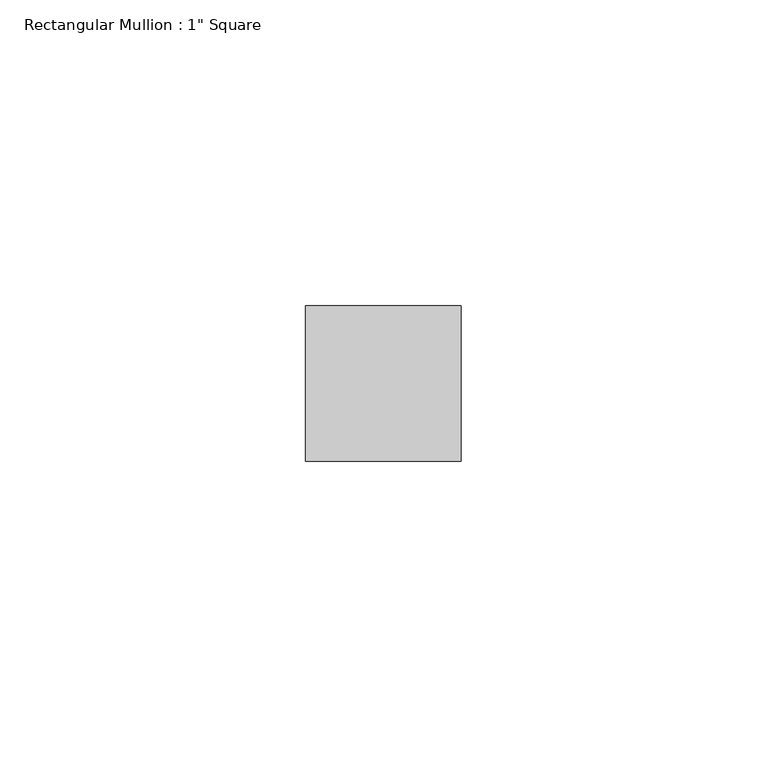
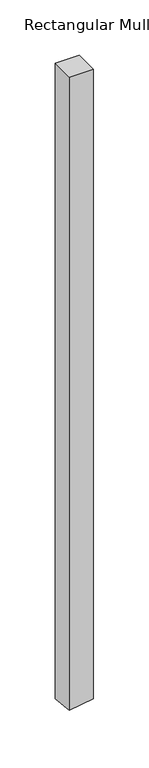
"""IFC4 building model written with IfcOpenShell, lengths in millimetres: member geometry."""

from ifc_helpers import new_model, si_unit, origin, place, context, project, spatial, faceted_brep, source, transform, mapped, element, save


def member_620464ac(model_context):
    return source(origin(), model_context, "Body", "Brep", [
        faceted_brep([(12.7, 12.7, 0.0), (-12.7, 12.7, 0.0), (-12.7, -12.7, 0.0), (12.7, -12.7, 0.0), (12.7, 12.7, -698.8974731), (-12.7, 12.7, -703.0446068), (-12.7, -12.7, -700.4360973), (12.7, -12.7, -696.2889637)], [[[0, 1, 2, 3]], [[1, 0, 4, 5]], [[2, 1, 5, 6]], [[3, 2, 6, 7]], [[0, 3, 7, 4]], [[4, 7, 6, 5]]]),
    ])


if __name__ == "__main__":
    model = new_model("IFC4")
    model_context = context("Model", 3, world=origin())
    ifc_project = project(units=[si_unit("LENGTHUNIT", "METRE", prefix="MILLI")], contexts=[model_context])
    site = spatial("IfcSite", under=ifc_project)
    building = spatial("IfcBuilding", under=site)
    placement = place(None, origin())
    member_shape = member_620464ac(model_context)
    element("IfcMember", 1, ObjectType="Rectangular Mullion : 1\" Square", at=placement, inside=building, context=model_context, shape_type="MappedRepresentation", body=[
        mapped(member_shape, transform((0.0, 0.0, 0.0), x_axis=(1.0, 0.0, 0.0), y_axis=(0.0, 1.0, 0.0), z_axis=(0.0, 0.0, 1.0))),
    ])
    save(model, "model.ifc")
